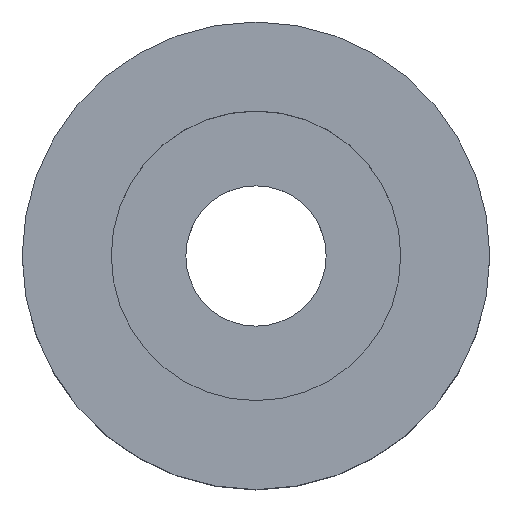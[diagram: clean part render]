
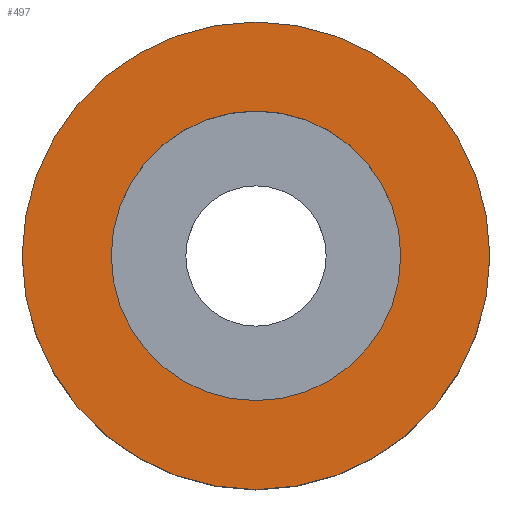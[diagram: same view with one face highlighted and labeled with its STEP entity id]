
A CAD part, top view. The second image highlights one B-rep face of the part: STEP entity #497.
In plain terms, the highlighted planar face has unit normal (0, 0, 1).
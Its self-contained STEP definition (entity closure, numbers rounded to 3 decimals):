
#336 = CYLINDRICAL_SURFACE('',#337,13.);
#337 = AXIS2_PLACEMENT_3D('',#338,#339,#340);
#338 = CARTESIAN_POINT('',(13.,13.,9.5));
#339 = DIRECTION('',(0.,0.,1.));
#340 = DIRECTION('',(1.,0.,-0.));
#413 = VERTEX_POINT('',#414);
#414 = CARTESIAN_POINT('',(26.,13.,12.));
#435 = EDGE_CURVE('',#413,#413,#436,.T.);
#436 = SURFACE_CURVE('',#437,(#442,#449),.PCURVE_S1.);
#437 = CIRCLE('',#438,13.);
#438 = AXIS2_PLACEMENT_3D('',#439,#440,#441);
#439 = CARTESIAN_POINT('',(13.,13.,12.));
#440 = DIRECTION('',(0.,0.,1.));
#441 = DIRECTION('',(1.,0.,-0.));
#442 = PCURVE('',#336,#443);
#443 = DEFINITIONAL_REPRESENTATION('',(#444),#448);
#444 = LINE('',#445,#446);
#445 = CARTESIAN_POINT('',(0.,2.5));
#446 = VECTOR('',#447,1.);
#447 = DIRECTION('',(1.,0.));
#448 = ( GEOMETRIC_REPRESENTATION_CONTEXT(2) 
PARAMETRIC_REPRESENTATION_CONTEXT() REPRESENTATION_CONTEXT('2D SPACE',''
  ) );
#449 = PCURVE('',#450,#455);
#450 = PLANE('',#451);
#451 = AXIS2_PLACEMENT_3D('',#452,#453,#454);
#452 = CARTESIAN_POINT('',(13.,13.,12.));
#453 = DIRECTION('',(0.,0.,1.));
#454 = DIRECTION('',(1.,0.,-0.));
#455 = DEFINITIONAL_REPRESENTATION('',(#456),#460);
#456 = CIRCLE('',#457,13.);
#457 = AXIS2_PLACEMENT_2D('',#458,#459);
#458 = CARTESIAN_POINT('',(0.,0.));
#459 = DIRECTION('',(1.,0.));
#460 = ( GEOMETRIC_REPRESENTATION_CONTEXT(2) 
PARAMETRIC_REPRESENTATION_CONTEXT() REPRESENTATION_CONTEXT('2D SPACE',''
  ) );
#483 = CYLINDRICAL_SURFACE('',#484,8.05);
#484 = AXIS2_PLACEMENT_3D('',#485,#486,#487);
#485 = CARTESIAN_POINT('',(13.,13.,6.9));
#486 = DIRECTION('',(-0.,-0.,-1.));
#487 = DIRECTION('',(1.,0.,0.));
#497 = ADVANCED_FACE('',(#498,#501),#450,.T.);
#498 = FACE_BOUND('',#499,.T.);
#499 = EDGE_LOOP('',(#500));
#500 = ORIENTED_EDGE('',*,*,#435,.T.);
#501 = FACE_BOUND('',#502,.T.);
#502 = EDGE_LOOP('',(#503));
#503 = ORIENTED_EDGE('',*,*,#504,.T.);
#504 = EDGE_CURVE('',#505,#505,#507,.T.);
#505 = VERTEX_POINT('',#506);
#506 = CARTESIAN_POINT('',(21.05,13.,12.));
#507 = SURFACE_CURVE('',#508,(#513,#524),.PCURVE_S1.);
#508 = CIRCLE('',#509,8.05);
#509 = AXIS2_PLACEMENT_3D('',#510,#511,#512);
#510 = CARTESIAN_POINT('',(13.,13.,12.));
#511 = DIRECTION('',(0.,0.,-1.));
#512 = DIRECTION('',(1.,0.,0.));
#513 = PCURVE('',#450,#514);
#514 = DEFINITIONAL_REPRESENTATION('',(#515),#523);
#515 = ( BOUNDED_CURVE() B_SPLINE_CURVE(2,(#516,#517,#518,#519,#520,#521
,#522),.UNSPECIFIED.,.T.,.F.) B_SPLINE_CURVE_WITH_KNOTS((1,2,2,2,2,1),(
    -2.094,0.,2.094,4.189,6.283,
8.378),.UNSPECIFIED.) CURVE() GEOMETRIC_REPRESENTATION_ITEM() 
RATIONAL_B_SPLINE_CURVE((1.,0.5,1.,0.5,1.,0.5,1.)) REPRESENTATION_ITEM(
  '') );
#516 = CARTESIAN_POINT('',(8.05,0.));
#517 = CARTESIAN_POINT('',(8.05,-13.943));
#518 = CARTESIAN_POINT('',(-4.025,-6.972));
#519 = CARTESIAN_POINT('',(-16.1,0.));
#520 = CARTESIAN_POINT('',(-4.025,6.972));
#521 = CARTESIAN_POINT('',(8.05,13.943));
#522 = CARTESIAN_POINT('',(8.05,0.));
#523 = ( GEOMETRIC_REPRESENTATION_CONTEXT(2) 
PARAMETRIC_REPRESENTATION_CONTEXT() REPRESENTATION_CONTEXT('2D SPACE',''
  ) );
#524 = PCURVE('',#483,#525);
#525 = DEFINITIONAL_REPRESENTATION('',(#526),#530);
#526 = LINE('',#527,#528);
#527 = CARTESIAN_POINT('',(-6.283,-5.1));
#528 = VECTOR('',#529,1.);
#529 = DIRECTION('',(1.,-0.));
#530 = ( GEOMETRIC_REPRESENTATION_CONTEXT(2) 
PARAMETRIC_REPRESENTATION_CONTEXT() REPRESENTATION_CONTEXT('2D SPACE',''
  ) );
